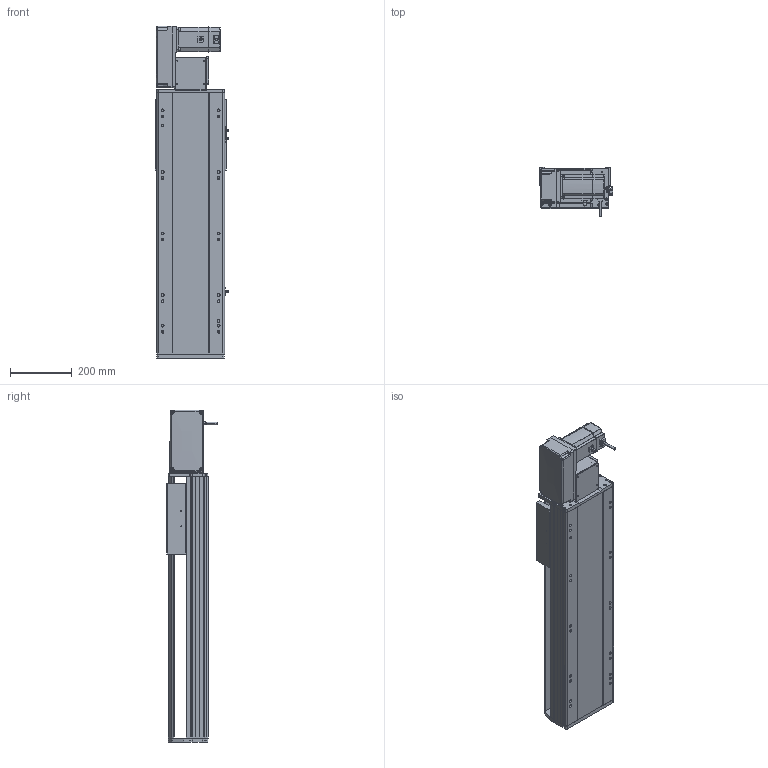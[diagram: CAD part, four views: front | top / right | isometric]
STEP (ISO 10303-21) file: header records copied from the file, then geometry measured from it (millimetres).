
FILE_DESCRIPTION (( 'STEP AP214' ), '1' );
FILE_NAME ('RTB22S-XX-500-L-M75-C4.STEP', '2025-12-12T03:13:30', ( '' ), ( '' ), 'SwSTEP 2.0', 'SolidWorks 2018', '' );
FILE_SCHEMA (( 'AUTOMOTIVE_DESIGN' ));
Length unit declared in the file: millimetre
Products named in the file (14): RTB22S-GY-017P^RTB22S-L-々湍釱蚾饜_RTB22S-XX-XX-L-M75-C4; RTB22S-GY-001耜裔^RTB22S-XX-XX-L-M75-C4; RTB22S-GY-018P^RTB22S-L-々湍釱蚾饜_RTB22S-XX-XX-L-M75-C4; RTB22S-GY-007奻裔^RTB22S-XX-XX-L-M75-C4; OMRON EE-SX672 传感器^RTB22S-XX-XX-L-M75-C4; RTB22S-L-004賑釱^RTB22S-XX-XX-L-M75-C4; RTB22S-L-011菁釱^RTB22S-XX-XX-L-M75-C4; RTB22S-GY-005P^RTB22S-L-々湍釱蚾饜_RTB22S-XX-XX-L-M75-C4; 750W萇儂^RTB22S-XX-XX-L-M75-C4; RTB22S-GY-008-M75--萇儂啣^RTB22S-L-々湍釱蚾饜_RTB22S-XX-XX-L-M75-C4; RTB22S-GY-014--々湍釱^RTB22S-L-々湍釱蚾饜_RTB22S-XX-XX-L-M75-C4; RTH22-GY-013外置感应片^RTB22S-XX-XX-L-M75-C4; RTB22S-XX-500-L-M75-C4; RTB22S-L-々湍釱蚾饜^RTB22S-XX-XX-L-M75-C4
Assembly tree (16 placements, depth 3):
  RTB22S-XX-500-L-M75-C4
    RTB22S-L-011菁釱^RTB22S-XX-XX-L-M75-C4
    750W萇儂^RTB22S-XX-XX-L-M75-C4
    RTB22S-L-004賑釱^RTB22S-XX-XX-L-M75-C4
    OMRON EE-SX672 传感器^RTB22S-XX-XX-L-M75-C4  x3
    RTH22-GY-013外置感应片^RTB22S-XX-XX-L-M75-C4
    RTB22S-GY-007奻裔^RTB22S-XX-XX-L-M75-C4
    RTB22S-GY-001耜裔^RTB22S-XX-XX-L-M75-C4
    RTB22S-L-々湍釱蚾饜^RTB22S-XX-XX-L-M75-C4
      RTB22S-GY-014--々湍釱^RTB22S-L-々湍釱蚾饜_RTB22S-XX-XX-L-M75-C4
      RTB22S-GY-017P^RTB22S-L-々湍釱蚾饜_RTB22S-XX-XX-L-M75-C4  x2
      RTB22S-GY-005P^RTB22S-L-々湍釱蚾饜_RTB22S-XX-XX-L-M75-C4
      RTB22S-GY-008-M75--萇儂啣^RTB22S-L-々湍釱蚾饜_RTB22S-XX-XX-L-M75-C4
      RTB22S-GY-018P^RTB22S-L-々湍釱蚾饜_RTB22S-XX-XX-L-M75-C4
Bounding box: 238.5 x 162.7 x 1079 mm (x, y, z)
Volume: 15463022.1 mm3; surface area: 1634181.1 mm2
Topology: 15 solids, 15 shells, 1929 faces, 5236 edges, 3362 vertices
Faces by surface type: plane 909, cylinder 586, bspline 296, cone 126, sphere 8, torus 4
Entity records: 50794 total; most frequent: CARTESIAN_POINT 14728, ORIENTED_EDGE 7284, DIRECTION 6956, EDGE_CURVE 3642, AXIS2_PLACEMENT_3D 2434, VERTEX_POINT 2366, VECTOR 2088, LINE 2088
